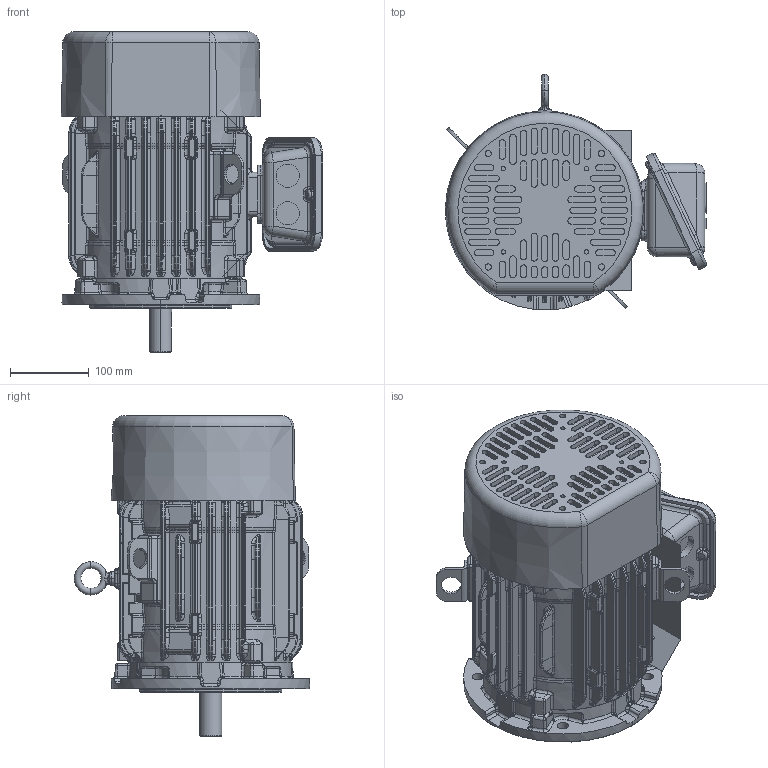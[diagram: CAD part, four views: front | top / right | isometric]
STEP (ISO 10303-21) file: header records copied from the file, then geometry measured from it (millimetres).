
FILE_DESCRIPTION((''),'2;1');
FILE_NAME('112_B5_ASM_ASM','2020-09-03T18:23:11',('EMD2341'),('Nidec Motor Corporation'),'CREO PARAMETRIC BY PTC INC, 2019080','CREO PARAMETRIC BY PTC INC, 2019080','');
FILE_SCHEMA(('CONFIG_CONTROL_DESIGN'));
Length unit declared in the file: inch
Products named in the file (11): 180_FOOTLESS_FRAME; 0133167; 180_CAST_GSK_OBB; 112_CAST_IEC; 180_CAST_GSK_OBC; 180_CAST_OBC; 180_STL_FCVR; 112_B5_BKT; 112_SHAFT; 2005476; 112_B5_ASM_ASM
Assembly tree (11 placements, depth 2):
  112_B5_ASM_ASM
    180_FOOTLESS_FRAME
    0133167
    180_CAST_GSK_OBB
    112_CAST_IEC
    180_CAST_GSK_OBC
    180_CAST_OBC
    180_STL_FCVR
    112_B5_BKT
    112_SHAFT
    2005476  x2
Bounding box: 330.93 x 298.19 x 405.97 mm (x, y, z)
Volume: 14927653.9 mm3; surface area: 877740.8 mm2
Topology: 11 solids, 13 shells, 4035 faces, 9291 edges, 5348 vertices
Faces by surface type: bspline 1626, cylinder 986, plane 800, extrusion 260, torus 184, sphere 142, cone 37
Entity records: 182434 total; most frequent: CARTESIAN_POINT 103273, ORIENTED_EDGE 18412, DIRECTION 13279, EDGE_CURVE 9212, VERTEX_POINT 5312, AXIS2_PLACEMENT_3D 4981, EDGE_LOOP 4123, FACE_OUTER_BOUND 4011
